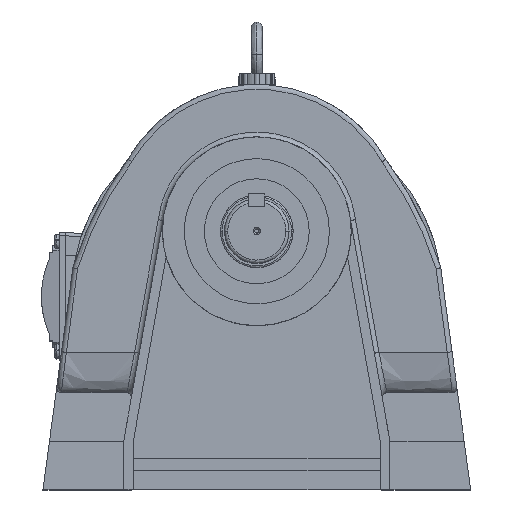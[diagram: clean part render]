
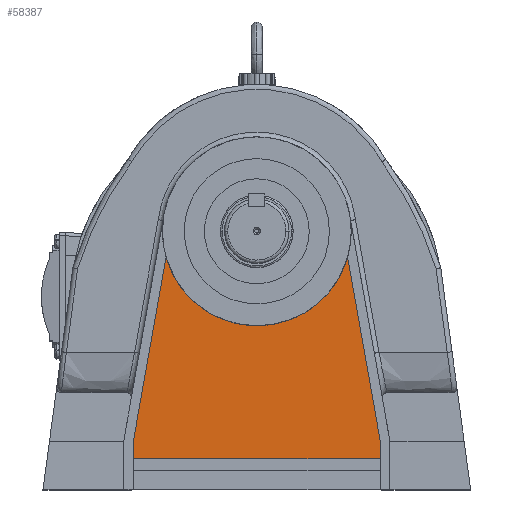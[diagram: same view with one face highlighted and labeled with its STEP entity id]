
A CAD part, top view. The second image highlights one B-rep face of the part: STEP entity #58387.
In plain terms, the highlighted planar face has unit normal (0, 0, 1).
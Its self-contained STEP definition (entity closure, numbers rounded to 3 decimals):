
#1617 = CARTESIAN_POINT ( 'NONE',  ( 76.5, 30., 172. ) ) ;
#4497 = FACE_OUTER_BOUND ( 'NONE', #54901, .T. ) ;
#7054 = DIRECTION ( 'NONE',  ( 0., 1., 0. ) ) ;
#7606 = LINE ( 'NONE', #61448, #23672 ) ;
#8796 = CARTESIAN_POINT ( 'NONE',  ( 76.5, 30., 172. ) ) ;
#9359 = LINE ( 'NONE', #37655, #43445 ) ;
#14340 = ORIENTED_EDGE ( 'NONE', *, *, #71911, .T. ) ;
#15015 = CARTESIAN_POINT ( 'NONE',  ( -76.5, 19., 172. ) ) ;
#17473 = VERTEX_POINT ( 'NONE', #82361 ) ;
#18341 = VERTEX_POINT ( 'NONE', #59052 ) ;
#19080 = LINE ( 'NONE', #72247, #68860 ) ;
#19280 = VERTEX_POINT ( 'NONE', #19837 ) ;
#19837 = CARTESIAN_POINT ( 'NONE',  ( 76.5, 19., 172. ) ) ;
#21273 = CARTESIAN_POINT ( 'NONE',  ( -76.5, 30., 172. ) ) ;
#21449 = LINE ( 'NONE', #1617, #55444 ) ;
#23672 = VECTOR ( 'NONE', #7054, 1000. ) ;
#27973 = CIRCLE ( 'NONE', #85064, 58.5 ) ;
#28138 = DIRECTION ( 'NONE',  ( 0., -1., 0. ) ) ;
#30320 = VECTOR ( 'NONE', #28138, 1000. ) ;
#31684 = CARTESIAN_POINT ( 'NONE',  ( 0., 160., 172. ) ) ;
#31960 = DIRECTION ( 'NONE',  ( 0., 0., 1. ) ) ;
#32070 = VERTEX_POINT ( 'NONE', #84844 ) ;
#32626 = ORIENTED_EDGE ( 'NONE', *, *, #47289, .F. ) ;
#34415 = AXIS2_PLACEMENT_3D ( 'NONE', #31684, #31960, #78964 ) ;
#37655 = CARTESIAN_POINT ( 'NONE',  ( -76.5, 19., 172. ) ) ;
#38597 = DIRECTION ( 'NONE',  ( -0.175, -0.985, 0. ) ) ;
#39038 = DIRECTION ( 'NONE',  ( 0., 0., 1. ) ) ;
#42483 = DIRECTION ( 'NONE',  ( -0.175, 0.985, 0. ) ) ;
#43445 = VECTOR ( 'NONE', #44822, 1000. ) ;
#44822 = DIRECTION ( 'NONE',  ( 1., 0., 0. ) ) ;
#45348 = EDGE_CURVE ( 'NONE', #18341, #45415, #48411, .T. ) ;
#45415 = VERTEX_POINT ( 'NONE', #15015 ) ;
#47289 = EDGE_CURVE ( 'NONE', #17473, #32070, #27973, .T. ) ;
#48355 = VERTEX_POINT ( 'NONE', #8796 ) ;
#48411 = LINE ( 'NONE', #21273, #30320 ) ;
#54901 = EDGE_LOOP ( 'NONE', ( #32626, #14340, #87284, #59492, #65257, #83546 ) ) ;
#55444 = VECTOR ( 'NONE', #42483, 1000. ) ;
#58387 = ADVANCED_FACE ( 'NONE', ( #4497 ), #65712, .T. ) ;
#59052 = CARTESIAN_POINT ( 'NONE',  ( -76.5, 30., 172. ) ) ;
#59421 = EDGE_CURVE ( 'NONE', #19280, #48355, #7606, .T. ) ;
#59492 = ORIENTED_EDGE ( 'NONE', *, *, #72453, .T. ) ;
#61448 = CARTESIAN_POINT ( 'NONE',  ( 76.5, 30., 172. ) ) ;
#65257 = ORIENTED_EDGE ( 'NONE', *, *, #59421, .T. ) ;
#65712 = PLANE ( 'NONE',  #34415 ) ;
#68860 = VECTOR ( 'NONE', #38597, 1000. ) ;
#69856 = EDGE_CURVE ( 'NONE', #48355, #32070, #21449, .T. ) ;
#71911 = EDGE_CURVE ( 'NONE', #17473, #18341, #19080, .T. ) ;
#72247 = CARTESIAN_POINT ( 'NONE',  ( -56.261, 143.972, 172. ) ) ;
#72453 = EDGE_CURVE ( 'NONE', #45415, #19280, #9359, .T. ) ;
#78964 = DIRECTION ( 'NONE',  ( 1., 0., 0. ) ) ;
#79225 = CARTESIAN_POINT ( 'NONE',  ( 0., 160., 172. ) ) ;
#82361 = CARTESIAN_POINT ( 'NONE',  ( -56.261, 143.972, 172. ) ) ;
#83546 = ORIENTED_EDGE ( 'NONE', *, *, #69856, .T. ) ;
#84844 = CARTESIAN_POINT ( 'NONE',  ( 56.261, 143.972, 172. ) ) ;
#85064 = AXIS2_PLACEMENT_3D ( 'NONE', #79225, #39038, #85921 ) ;
#85921 = DIRECTION ( 'NONE',  ( 1., 0., 0. ) ) ;
#87284 = ORIENTED_EDGE ( 'NONE', *, *, #45348, .T. ) ;
